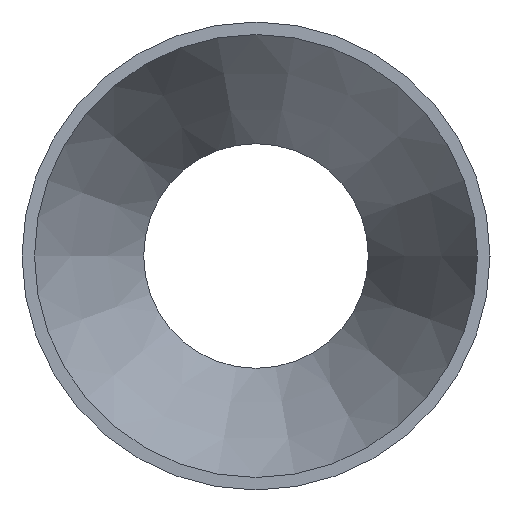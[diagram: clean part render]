
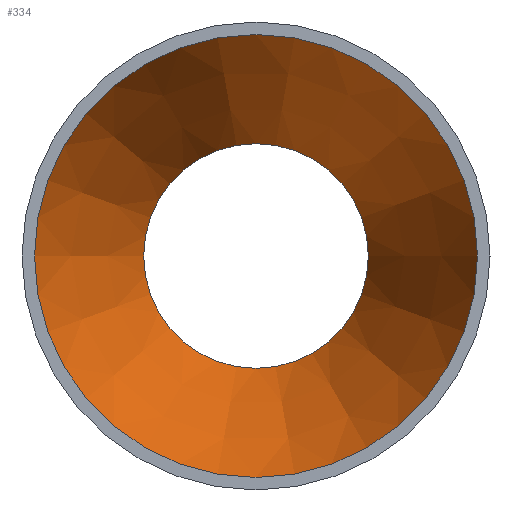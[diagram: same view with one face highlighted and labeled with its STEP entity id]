
A CAD part, left-side view. The second image highlights one B-rep face of the part: STEP entity #334.
In plain terms, the highlighted conical face has half-angle 22.947 degrees and reference radius 40.767 mm.
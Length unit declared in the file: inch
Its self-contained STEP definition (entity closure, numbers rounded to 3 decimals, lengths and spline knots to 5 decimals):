
#66=FACE_OUTER_BOUND('',#82,.T.);
#82=EDGE_LOOP('',(#235,#236,#237,#238,#239,#240));
#104=LINE('',#580,#114);
#114=VECTOR('',#447,1.605);
#127=CIRCLE('',#375,1.08);
#128=CIRCLE('',#376,2.13);
#129=CIRCLE('',#377,2.13);
#130=CIRCLE('',#378,1.08);
#159=VERTEX_POINT('',#576);
#160=VERTEX_POINT('',#577);
#161=VERTEX_POINT('',#579);
#162=VERTEX_POINT('',#581);
#192=EDGE_CURVE('',#159,#160,#127,.T.);
#193=EDGE_CURVE('',#160,#161,#104,.T.);
#194=EDGE_CURVE('',#162,#161,#128,.T.);
#195=EDGE_CURVE('',#161,#162,#129,.T.);
#196=EDGE_CURVE('',#160,#159,#130,.T.);
#235=ORIENTED_EDGE('',*,*,#192,.T.);
#236=ORIENTED_EDGE('',*,*,#193,.T.);
#237=ORIENTED_EDGE('',*,*,#194,.F.);
#238=ORIENTED_EDGE('',*,*,#195,.F.);
#239=ORIENTED_EDGE('',*,*,#193,.F.);
#240=ORIENTED_EDGE('',*,*,#196,.T.);
#314=CONICAL_SURFACE('',#374,1.605,0.401);
#334=ADVANCED_FACE('',(#66),#314,.F.);
#374=AXIS2_PLACEMENT_3D('',#575,#443,#444);
#375=AXIS2_PLACEMENT_3D('',#578,#445,#446);
#376=AXIS2_PLACEMENT_3D('',#582,#448,#449);
#377=AXIS2_PLACEMENT_3D('',#583,#450,#451);
#378=AXIS2_PLACEMENT_3D('',#584,#452,#453);
#443=DIRECTION('center_axis',(-1.,0.,0.));
#444=DIRECTION('ref_axis',(0.,1.,0.));
#445=DIRECTION('center_axis',(1.,0.,0.));
#446=DIRECTION('ref_axis',(0.,1.,0.));
#447=DIRECTION('',(-0.921,-0.39,0.));
#448=DIRECTION('center_axis',(1.,0.,0.));
#449=DIRECTION('ref_axis',(0.,1.,0.));
#450=DIRECTION('center_axis',(1.,0.,0.));
#451=DIRECTION('ref_axis',(0.,1.,0.));
#452=DIRECTION('center_axis',(1.,0.,0.));
#453=DIRECTION('ref_axis',(0.,1.,0.));
#575=CARTESIAN_POINT('Origin',(2.5,0.,0.));
#576=CARTESIAN_POINT('',(3.74,1.08,0.));
#577=CARTESIAN_POINT('',(3.74,-1.08,0.));
#578=CARTESIAN_POINT('Origin',(3.74,0.,0.));
#579=CARTESIAN_POINT('',(1.26,-2.13,0.));
#580=CARTESIAN_POINT('',(2.5,-1.605,0.));
#581=CARTESIAN_POINT('',(1.26,2.13,0.));
#582=CARTESIAN_POINT('Origin',(1.26,0.,0.));
#583=CARTESIAN_POINT('Origin',(1.26,0.,0.));
#584=CARTESIAN_POINT('Origin',(3.74,0.,0.));
